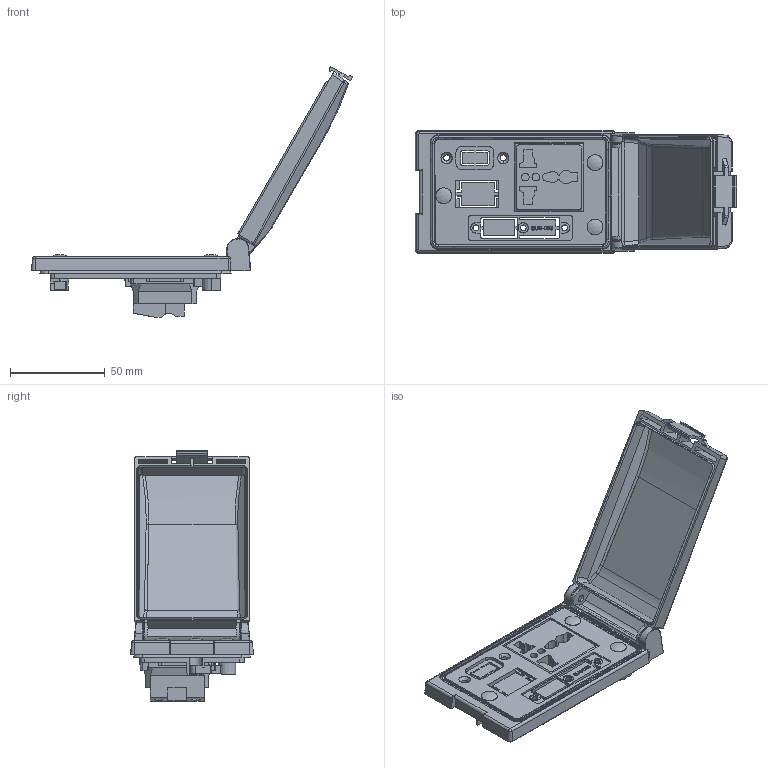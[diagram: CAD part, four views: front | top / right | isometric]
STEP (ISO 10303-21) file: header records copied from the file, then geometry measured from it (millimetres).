
FILE_DESCRIPTION (( 'STEP AP203' ), '1' );
FILE_NAME ('9100000U.STEP', '2023-10-28T05:57:59', ( 'ADMIN' ), ( '' ), 'SwSTEP 2.0', 'SolidWorks 2016', '' );
FILE_SCHEMA (( 'CONFIG_CONTROL_DESIGN' ));
Length unit declared in the file: millimetre
Products named in the file (1): 9100000U
Bounding box: 169.88 x 65 x 132.28 mm (x, y, z)
Volume: 79655 mm3; surface area: 59797.3 mm2
Topology: 2 solids, 2 shells, 1321 faces, 3561 edges, 2274 vertices
Faces by surface type: plane 608, cylinder 352, bspline 252, cone 69, torus 26, sphere 14
Entity records: 58134 total; most frequent: CARTESIAN_POINT 28474, ORIENTED_EDGE 7074, DIRECTION 4594, EDGE_CURVE 3537, VERTEX_POINT 2268, VECTOR 1928, LINE 1928, EDGE_LOOP 1417
